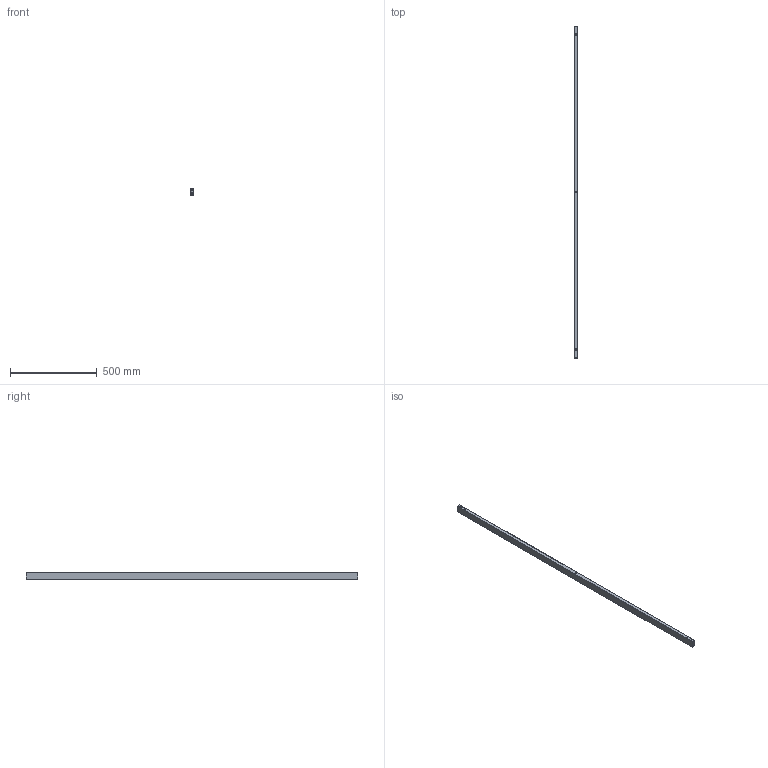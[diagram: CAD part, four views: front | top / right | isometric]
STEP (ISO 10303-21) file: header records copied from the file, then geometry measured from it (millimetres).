
FILE_DESCRIPTION( ( 'STEP AP214' ), '1' );
FILE_NAME( 'D:/Yug/2021/Delta/desk_and_office_organisation/QC/46016.stp', '2021-01-22T12:16:33', ( '' ), ( '' ), ' ', 'PARTsolutions', ' ' );
FILE_SCHEMA( ( 'AUTOMOTIVE_DESIGN { 1 0 10303 214 1 1 1 1 }' ) );
Length unit declared in the file: millimetre
Products named in the file (1): _46016
Bounding box: 20 x 1910 x 41.5 mm (x, y, z)
Volume: 335228.6 mm3; surface area: 438546 mm2
Topology: 1 solids, 1 shells, 33 faces, 98 edges, 69 vertices
Faces by surface type: cylinder 21, plane 12
Full cylindrical faces by diameter (mm): 8 x4, 8.3 x5, 9 x8, 12.5 x2, 14.5 x2
Entity records: 1826 total; most frequent: CARTESIAN_POINT 710, DIRECTION 160, ORIENTED_EDGE 132, EDGE_LOOP 96, AXIS2_PLACEMENT_3D 68, EDGE_CURVE 66, VERTEX_POINT 58, FACE_OUTER_BOUND 54
